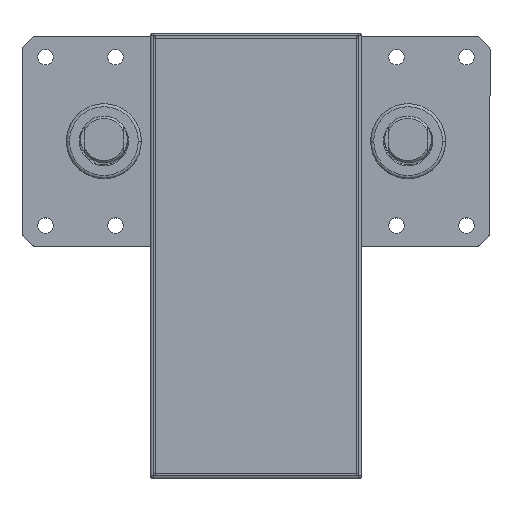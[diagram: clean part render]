
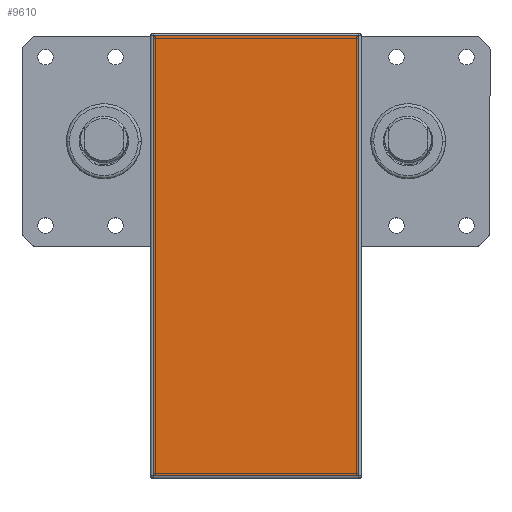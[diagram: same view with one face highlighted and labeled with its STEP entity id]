
A CAD part, top view. The second image highlights one B-rep face of the part: STEP entity #9610.
In plain terms, the highlighted planar face has unit normal (0, 0, 1).
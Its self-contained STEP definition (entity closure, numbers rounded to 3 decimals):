
#265 = ORIENTED_EDGE ( 'NONE', *, *, #28621, .T. ) ;
#960 = ORIENTED_EDGE ( 'NONE', *, *, #13603, .T. ) ;
#2457 = EDGE_CURVE ( 'NONE', #7174, #41721, #41666, .T. ) ;
#4335 = VECTOR ( 'NONE', #10599, 1000. ) ;
#4489 = CARTESIAN_POINT ( 'NONE',  ( 44., 44., 571. ) ) ;
#5251 = VECTOR ( 'NONE', #30939, 1000. ) ;
#7174 = VERTEX_POINT ( 'NONE', #10579 ) ;
#9610 = ADVANCED_FACE ( 'NONE', ( #28988 ), #31988, .T. ) ;
#10182 = LINE ( 'NONE', #37949, #26821 ) ;
#10579 = CARTESIAN_POINT ( 'NONE',  ( 44., -144., 571. ) ) ;
#10599 = DIRECTION ( 'NONE',  ( 0., -1., 0. ) ) ;
#12510 = VECTOR ( 'NONE', #14616, 1000. ) ;
#13603 = EDGE_CURVE ( 'NONE', #32552, #7174, #21377, .T. ) ;
#14616 = DIRECTION ( 'NONE',  ( 1., 0., 0. ) ) ;
#15406 = CARTESIAN_POINT ( 'NONE',  ( -44., -144., 571. ) ) ;
#18751 = DIRECTION ( 'NONE',  ( 1., 0., 0. ) ) ;
#19591 = EDGE_LOOP ( 'NONE', ( #265, #960, #28642, #33056 ) ) ;
#21377 = LINE ( 'NONE', #34548, #12510 ) ;
#25538 = CARTESIAN_POINT ( 'NONE',  ( -44., 44., 571. ) ) ;
#26821 = VECTOR ( 'NONE', #37803, 1000. ) ;
#28621 = EDGE_CURVE ( 'NONE', #34973, #32552, #38684, .T. ) ;
#28642 = ORIENTED_EDGE ( 'NONE', *, *, #2457, .T. ) ;
#28988 = FACE_OUTER_BOUND ( 'NONE', #19591, .T. ) ;
#30267 = CARTESIAN_POINT ( 'NONE',  ( 44., 44., 571. ) ) ;
#30525 = CARTESIAN_POINT ( 'NONE',  ( -44., -144., 571. ) ) ;
#30939 = DIRECTION ( 'NONE',  ( 0., 1., 0. ) ) ;
#31988 = PLANE ( 'NONE',  #35481 ) ;
#32552 = VERTEX_POINT ( 'NONE', #35904 ) ;
#32892 = EDGE_CURVE ( 'NONE', #41721, #34973, #10182, .T. ) ;
#33056 = ORIENTED_EDGE ( 'NONE', *, *, #32892, .T. ) ;
#34548 = CARTESIAN_POINT ( 'NONE',  ( 44., -144., 571. ) ) ;
#34973 = VERTEX_POINT ( 'NONE', #25538 ) ;
#35481 = AXIS2_PLACEMENT_3D ( 'NONE', #15406, #38712, #18751 ) ;
#35904 = CARTESIAN_POINT ( 'NONE',  ( -44., -144., 571. ) ) ;
#37803 = DIRECTION ( 'NONE',  ( -1., 0., 0. ) ) ;
#37949 = CARTESIAN_POINT ( 'NONE',  ( -44., 44., 571. ) ) ;
#38684 = LINE ( 'NONE', #30525, #4335 ) ;
#38712 = DIRECTION ( 'NONE',  ( 0., 0., 1. ) ) ;
#41666 = LINE ( 'NONE', #4489, #5251 ) ;
#41721 = VERTEX_POINT ( 'NONE', #30267 ) ;
